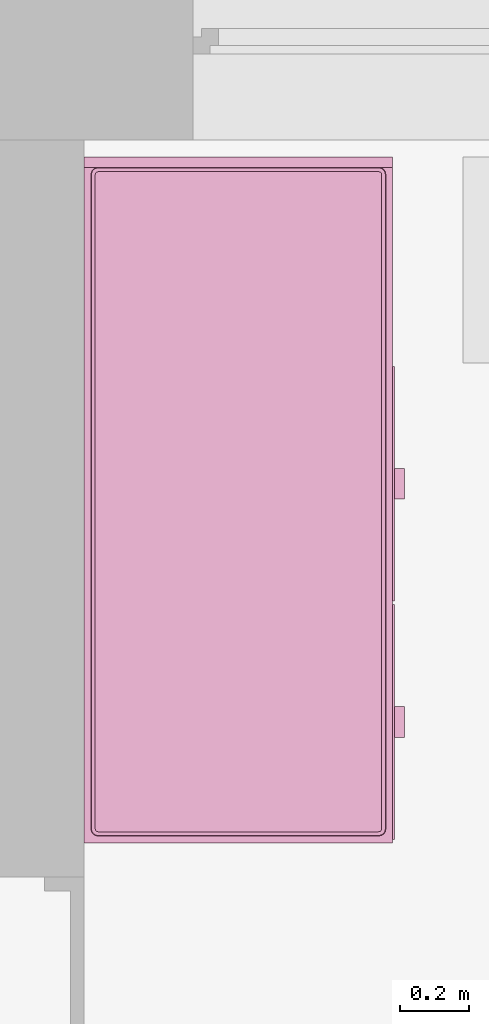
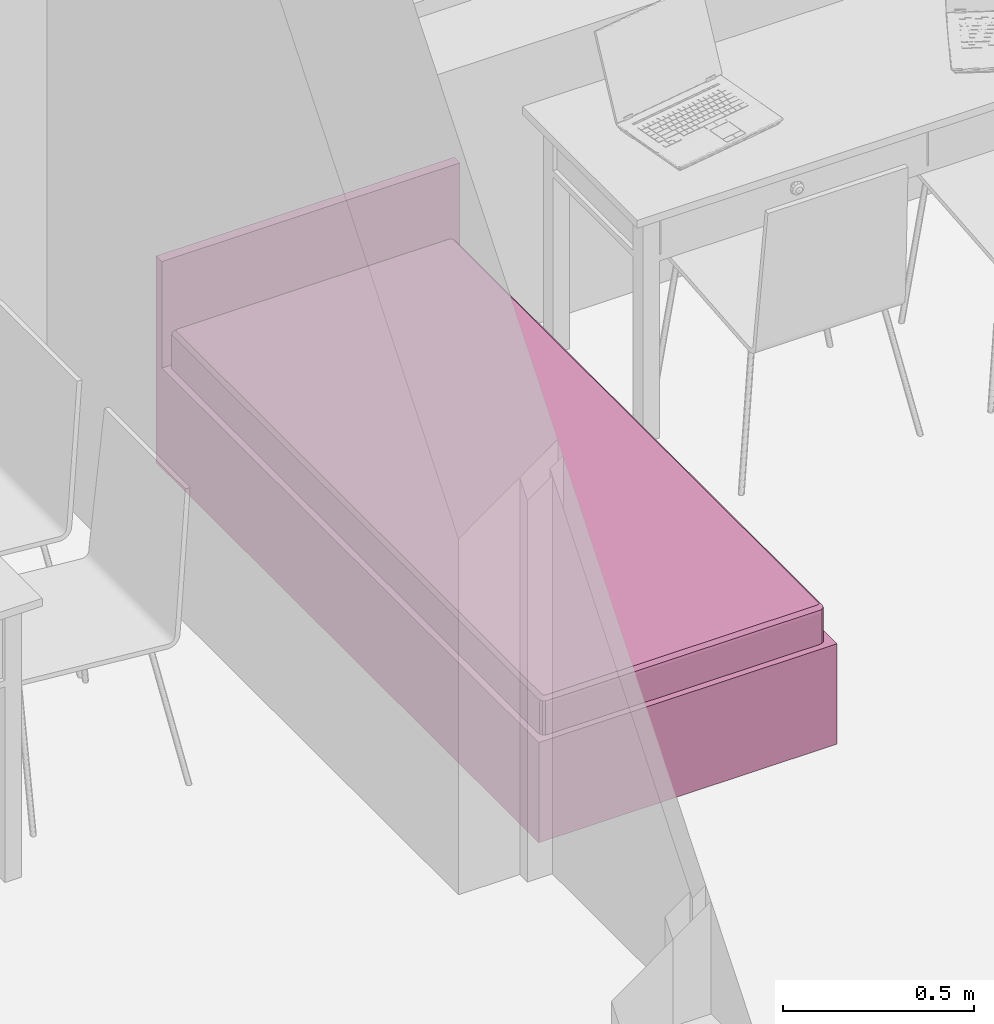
# One storey, part 88 of 172: 1 furnishing.
"""IFC2X3 building model written with IfcOpenShell, lengths in millimetres."""

from ifc_helpers import new_model, entity, si_unit, converted_unit, money_unit, direction, frame, origin_with_axes, place, context, subcontext, project, spatial, faceted_brep, source, transform, mapped, material, material_list, type_object, element, save


model = new_model("IFC2X3")

# Units and contexts
model_context = context("Model", 3, precision=1e-05, world=origin_with_axes(), true_north=direction((0.0, 1.0)))
body_context = subcontext(model_context, "Body", "Model", "MODEL_VIEW")
ifc_project = project(units=[si_unit("LENGTHUNIT", "METRE", prefix="MILLI"), si_unit("AREAUNIT", "SQUARE_METRE"), si_unit("VOLUMEUNIT", "CUBIC_METRE"), converted_unit("PLANEANGLEUNIT", "DEGREE", entity("IfcPlaneAngleMeasure", 0.0174532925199), si_unit("PLANEANGLEUNIT", "RADIAN"), dimensions=[0, 0, 0, 0, 0, 0, 0]), si_unit("SOLIDANGLEUNIT", "STERADIAN"), money_unit("USD"), converted_unit("TIMEUNIT", "Year", entity("IfcTimeMeasure", 31556926.0), si_unit("TIMEUNIT", "SECOND"), dimensions=[0, 0, 0, 0, 0, 0, 0]), si_unit("MASSUNIT", "GRAM"), si_unit("THERMODYNAMICTEMPERATUREUNIT", "DEGREE_CELSIUS"), si_unit("LUMINOUSINTENSITYUNIT", "LUMEN")], contexts=[model_context])

# Site, building, storey
site_placement = place(None, origin_with_axes())
site = spatial("IfcSite", under=ifc_project, at=site_placement, Name="Site", CompositionType="ELEMENT")
building_placement = place(site_placement, origin_with_axes())
building = spatial("IfcBuilding", under=site, at=building_placement, Name="Building", CompositionType="ELEMENT")
storey_placement = place(building_placement, frame((0.0, 0.0, 3200.0), z_axis=(0.0, 0.0, 1.0), x_axis=(1.0, 0.0, 0.0)))
storey = spatial("IfcBuildingStorey", under=building, at=storey_placement, Name="3KORRUS", CompositionType="ELEMENT", Elevation=3200.0)

# Furnishing
ifc_material = material(Name="Background")
ifc_material_list = material_list([ifc_material])
furnishing_element_type = type_object("IfcFurnishingElementType", Name="Bed 19")
shared_shape = source(origin_with_axes(), body_context, "Body", "Brep", [
    faceted_brep([(900.0, 1970.0, 0.0), (0.0, 1970.0, 0.0), (0.0, 2000.0, 0.0), (900.0, 2000.0, 0.0), (900.0, 1970.0, 660.0), (0.0, 1970.0, 660.0), (0.0, 2000.0, 660.0), (900.0, 2000.0, 660.0)], [[[0, 1, 2, 3]], [[1, 0, 4, 5]], [[2, 1, 5, 6]], [[3, 2, 6, 7]], [[0, 3, 7, 4]], [[5, 4, 7, 6]]]),
    faceted_brep([(900.0, 0.0, 0.0), (0.0, 0.0, 0.0), (0.0, 1970.0, 0.0), (900.0, 1970.0, 0.0), (900.0, 0.0, 320.0), (0.0, 0.0, 320.0), (0.0, 1970.0, 320.0), (900.0, 1970.0, 320.0)], [[[0, 1, 2, 3]], [[1, 0, 4, 5]], [[2, 1, 5, 6]], [[3, 2, 6, 7]], [[0, 3, 7, 4]], [[5, 4, 7, 6]]]),
    faceted_brep([(905.0, 10.0, 30.0), (900.0, 10.0, 30.0), (900.0, 695.0, 30.0), (905.0, 695.0, 30.0), (905.0, 10.0, 290.0), (900.0, 10.0, 290.0), (900.0, 695.0, 290.0), (905.0, 695.0, 290.0)], [[[0, 1, 2, 3]], [[1, 0, 4, 5]], [[2, 1, 5, 6]], [[3, 2, 6, 7]], [[0, 3, 7, 4]], [[5, 4, 7, 6]]]),
    faceted_brep([(935.0, 307.5, 150.0), (905.0, 307.5, 150.0), (905.0, 397.5, 150.0), (935.0, 397.5, 150.0), (935.0, 307.5, 170.0), (905.0, 307.5, 170.0), (905.0, 397.5, 170.0), (935.0, 397.5, 170.0)], [[[0, 1, 2, 3]], [[1, 0, 4, 5]], [[2, 1, 5, 6]], [[3, 2, 6, 7]], [[0, 3, 7, 4]], [[5, 4, 7, 6]]]),
    faceted_brep([(905.0, 705.0, 30.0), (900.0, 705.0, 30.0), (900.0, 1390.0, 30.0), (905.0, 1390.0, 30.0), (905.0, 705.0, 290.0), (900.0, 705.0, 290.0), (900.0, 1390.0, 290.0), (905.0, 1390.0, 290.0)], [[[0, 1, 2, 3]], [[1, 0, 4, 5]], [[2, 1, 5, 6]], [[3, 2, 6, 7]], [[0, 3, 7, 4]], [[5, 4, 7, 6]]]),
    faceted_brep([(935.0, 1002.5, 150.0), (905.0, 1002.5, 150.0), (905.0, 1092.5, 150.0), (935.0, 1092.5, 150.0), (935.0, 1002.5, 170.0), (905.0, 1002.5, 170.0), (905.0, 1092.5, 170.0), (935.0, 1092.5, 170.0)], [[[0, 1, 2, 3]], [[1, 0, 4, 5]], [[2, 1, 5, 6]], [[3, 2, 6, 7]], [[0, 3, 7, 4]], [[5, 4, 7, 6]]]),
    faceted_brep([(20.0, 40.0, 350.0), (20.0, 1950.0, 350.0), (21.522, 1957.654, 350.0), (25.858, 1964.142, 350.0), (32.346, 1968.478, 350.0), (40.0, 1970.0, 350.0), (860.0, 1970.0, 350.0), (867.654, 1968.478, 350.0), (874.142, 1964.142, 350.0), (878.478, 1957.654, 350.0), (880.0, 1950.0, 350.0), (880.0, 40.0, 350.0), (878.478, 32.346, 350.0), (874.142, 25.858, 350.0), (867.654, 21.522, 350.0), (860.0, 20.0, 350.0), (40.0, 20.0, 350.0), (32.346, 21.522, 350.0), (25.858, 25.858, 350.0), (21.522, 32.346, 350.0), (20.0, 40.0, 420.0), (20.0, 1950.0, 420.0), (21.522, 1957.654, 420.0), (25.858, 1964.142, 420.0), (32.346, 1968.478, 420.0), (40.0, 1970.0, 420.0), (860.0, 1970.0, 420.0), (867.654, 1968.478, 420.0), (874.142, 1964.142, 420.0), (878.478, 1957.654, 420.0), (880.0, 1950.0, 420.0), (880.0, 40.0, 420.0), (878.478, 32.346, 420.0), (874.142, 25.858, 420.0), (867.654, 21.522, 420.0), (860.0, 20.0, 420.0), (40.0, 20.0, 420.0), (32.346, 21.522, 420.0), (25.858, 25.858, 420.0), (21.522, 32.346, 420.0), (21.522, 40.15, 427.654), (21.522, 1949.85, 427.654), (22.956, 1957.06, 427.654), (26.955, 1963.045, 427.654), (32.94, 1967.044, 427.654), (40.15, 1968.478, 427.654), (859.85, 1968.478, 427.654), (867.06, 1967.044, 427.654), (873.045, 1963.045, 427.654), (877.044, 1957.06, 427.654), (878.478, 1949.85, 427.654), (878.478, 40.15, 427.654), (877.044, 32.94, 427.654), (873.045, 26.955, 427.654), (867.06, 22.956, 427.654), (859.85, 21.522, 427.654), (40.15, 21.522, 427.654), (32.94, 22.956, 427.654), (26.955, 26.955, 427.654), (22.956, 32.94, 427.654), (32.346, 41.216, 438.478), (32.346, 1948.784, 438.478), (33.152, 1952.836, 438.478), (34.759, 1955.241, 438.478), (37.164, 1956.848, 438.478), (41.216, 1957.654, 438.478), (858.784, 1957.654, 438.478), (862.836, 1956.848, 438.478), (865.241, 1955.241, 438.478), (866.848, 1952.836, 438.478), (867.654, 1948.784, 438.478), (867.654, 41.216, 438.478), (866.848, 37.164, 438.478), (865.241, 34.759, 438.478), (862.836, 33.152, 438.478), (858.784, 32.346, 438.478), (41.216, 32.346, 438.478), (37.164, 33.152, 438.478), (34.759, 34.759, 438.478), (33.152, 37.164, 438.478), (40.0, 41.97, 440.0), (40.0, 1948.03, 440.0), (40.327, 1949.673, 440.0), (40.0, 1950.0, 439.924), (41.97, 1950.0, 440.0), (858.03, 1950.0, 440.0), (859.673, 1949.673, 440.0), (860.0, 1950.0, 439.924), (860.0, 1948.03, 440.0), (860.0, 41.97, 440.0), (859.673, 40.327, 440.0), (860.0, 40.0, 439.924), (858.03, 40.0, 440.0), (41.97, 40.0, 440.0), (40.327, 40.327, 440.0), (40.0, 40.0, 439.924)], [[[0, 1, 2, 3, 4, 5, 6, 7, 8, 9, 10, 11, 12, 13, 14, 15, 16, 17, 18, 19]], [[1, 0, 20, 21]], [[2, 1, 21, 22]], [[3, 2, 22, 23]], [[4, 3, 23, 24]], [[5, 4, 24, 25]], [[6, 5, 25, 26]], [[7, 6, 26, 27]], [[8, 7, 27, 28]], [[9, 8, 28, 29]], [[10, 9, 29, 30]], [[11, 10, 30, 31]], [[12, 11, 31, 32]], [[13, 12, 32, 33]], [[14, 13, 33, 34]], [[15, 14, 34, 35]], [[16, 15, 35, 36]], [[17, 16, 36, 37]], [[18, 17, 37, 38]], [[19, 18, 38, 39]], [[0, 19, 39, 20]], [[21, 20, 40, 41]], [[22, 21, 41, 42]], [[23, 22, 42, 43]], [[24, 23, 43, 44]], [[25, 24, 44, 45]], [[26, 25, 45, 46]], [[27, 26, 46, 47]], [[28, 27, 47, 48]], [[29, 28, 48, 49]], [[30, 29, 49, 50]], [[31, 30, 50, 51]], [[32, 31, 51, 52]], [[33, 32, 52, 53]], [[34, 33, 53, 54]], [[35, 34, 54, 55]], [[36, 35, 55, 56]], [[37, 36, 56, 57]], [[38, 37, 57, 58]], [[39, 38, 58, 59]], [[20, 39, 59, 40]], [[41, 40, 60, 61]], [[42, 41, 61, 62]], [[43, 42, 62, 63]], [[44, 43, 63, 64]], [[45, 44, 64, 65]], [[46, 45, 65, 66]], [[47, 46, 66, 67]], [[48, 47, 67, 68]], [[49, 48, 68, 69]], [[50, 49, 69, 70]], [[51, 50, 70, 71]], [[52, 51, 71, 72]], [[53, 52, 72, 73]], [[54, 53, 73, 74]], [[55, 54, 74, 75]], [[56, 55, 75, 76]], [[57, 56, 76, 77]], [[58, 57, 77, 78]], [[59, 58, 78, 79]], [[40, 59, 79, 60]], [[61, 60, 80, 81]], [[62, 61, 81, 82, 83]], [[63, 62, 83]], [[64, 63, 83]], [[65, 64, 83, 82, 84]], [[66, 65, 84, 85]], [[67, 66, 85, 86, 87]], [[68, 67, 87]], [[69, 68, 87]], [[70, 69, 87, 86, 88]], [[71, 70, 88, 89]], [[72, 71, 89, 90, 91]], [[73, 72, 91]], [[74, 73, 91]], [[75, 74, 91, 90, 92]], [[76, 75, 92, 93]], [[77, 76, 93, 94, 95]], [[78, 77, 95]], [[79, 78, 95]], [[60, 79, 95, 94, 80]], [[81, 80, 94, 93, 92, 90, 89, 88, 86, 85, 84, 82]]]),
    faceted_brep([(20.0, 40.0, 350.0), (21.522, 32.346, 350.0), (25.858, 25.858, 350.0), (32.346, 21.522, 350.0), (40.0, 20.0, 350.0), (860.0, 20.0, 350.0), (867.654, 21.522, 350.0), (874.142, 25.858, 350.0), (878.478, 32.346, 350.0), (880.0, 40.0, 350.0), (880.0, 1950.0, 350.0), (878.478, 1957.654, 350.0), (874.142, 1964.142, 350.0), (867.654, 1968.478, 350.0), (860.0, 1970.0, 350.0), (40.0, 1970.0, 350.0), (32.346, 1968.478, 350.0), (25.858, 1964.142, 350.0), (21.522, 1957.654, 350.0), (20.0, 1950.0, 350.0), (20.0, 40.0, 320.0), (21.522, 32.346, 320.0), (25.858, 25.858, 320.0), (32.346, 21.522, 320.0), (40.0, 20.0, 320.0), (860.0, 20.0, 320.0), (867.654, 21.522, 320.0), (874.142, 25.858, 320.0), (878.478, 32.346, 320.0), (880.0, 40.0, 320.0), (880.0, 1950.0, 320.0), (878.478, 1957.654, 320.0), (874.142, 1964.142, 320.0), (867.654, 1968.478, 320.0), (860.0, 1970.0, 320.0), (40.0, 1970.0, 320.0), (32.346, 1968.478, 320.0), (25.858, 1964.142, 320.0), (21.522, 1957.654, 320.0), (20.0, 1950.0, 320.0)], [[[0, 1, 2, 3, 4, 5, 6, 7, 8, 9, 10, 11, 12, 13, 14, 15, 16, 17, 18, 19]], [[0, 20, 21, 1]], [[1, 21, 22, 2]], [[2, 22, 23, 3]], [[3, 23, 24, 4]], [[4, 24, 25, 5]], [[5, 25, 26, 6]], [[6, 26, 27, 7]], [[7, 27, 28, 8]], [[8, 28, 29, 9]], [[9, 29, 30, 10]], [[10, 30, 31, 11]], [[11, 31, 32, 12]], [[12, 32, 33, 13]], [[13, 33, 34, 14]], [[14, 34, 35, 15]], [[15, 35, 36, 16]], [[16, 36, 37, 17]], [[17, 37, 38, 18]], [[18, 38, 39, 19]], [[19, 39, 20, 0]], [[20, 39, 38, 37, 36, 35, 34, 33, 32, 31, 30, 29, 28, 27, 26, 25, 24, 23, 22, 21]]]),
])
furnishing_placement = place(storey_placement, frame((-47990.2967033, -7189.87086674, 0.0), z_axis=(0.0, 0.0, 1.0), x_axis=(1.0, 0.0, 0.0)))
element("IfcFurnishingElement", 1, at=furnishing_placement, inside=storey, type_object=furnishing_element_type, material=ifc_material_list, Name="FU - 013", context=body_context, shape_type="MappedRepresentation", body=[
    mapped(shared_shape, transform((0.0, 0.0, 0.0))),
])

save(model, "model.ifc")
